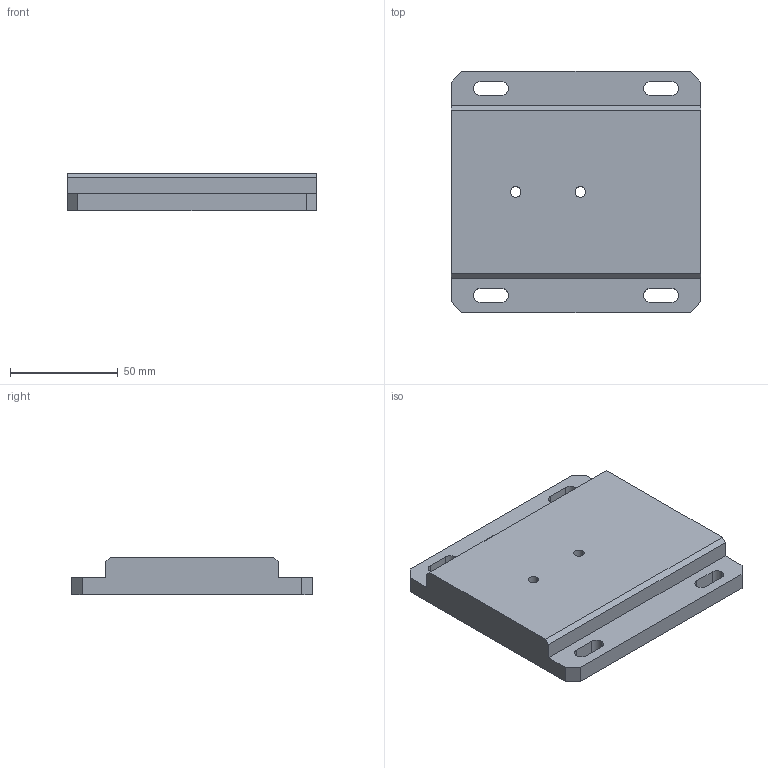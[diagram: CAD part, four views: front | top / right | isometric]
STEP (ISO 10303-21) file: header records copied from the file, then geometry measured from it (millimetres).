
FILE_DESCRIPTION (( 'STEP AP214' ), '1' );
FILE_NAME ('GZ28.01_V1气缸底座.STEP', '2021-04-11T13:28:41', ( 'hp' ), ( '' ), 'SwSTEP 2.0', 'SolidWorks 2017', '' );
FILE_SCHEMA (( 'AUTOMOTIVE_DESIGN' ));
Length unit declared in the file: millimetre
Products named in the file (1): GZ28.01_V1气缸底座
Bounding box: 116 x 112 x 17.5 mm (x, y, z)
Volume: 187553.9 mm3; surface area: 33867.1 mm2
Topology: 1 solids, 1 shells, 40 faces, 114 edges, 76 vertices
Faces by surface type: plane 24, cylinder 16
Entity records: 1412 total; most frequent: CARTESIAN_POINT 231, ORIENTED_EDGE 228, DIRECTION 228, EDGE_CURVE 114, LINE 82, VECTOR 82, VERTEX_POINT 76, AXIS2_PLACEMENT_3D 73
